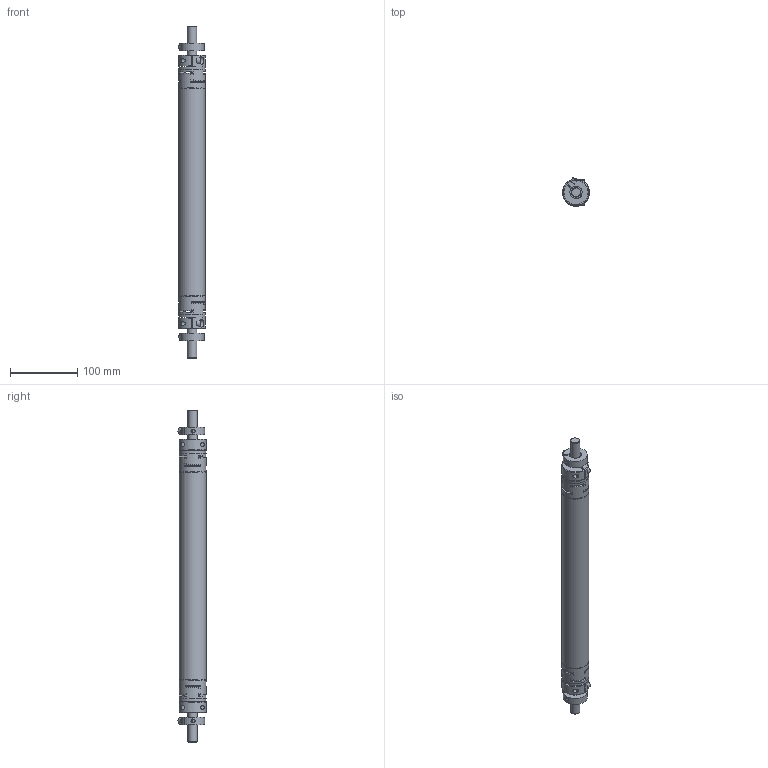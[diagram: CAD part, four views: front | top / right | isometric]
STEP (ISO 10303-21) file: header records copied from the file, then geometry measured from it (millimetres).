
FILE_DESCRIPTION(/* description */ ('Connecting shaft HLR080 - double axis distance = 500mm'),/* implementation_level */ '2;1');
FILE_NAME(/* name */ 'D:\InventorWorkspace2017\CAD\Projekte_EDEM\HLR\Zubehörteile\0242910-0500.stp',/* time_stamp */ '2019-02-13T11:21:44+01:00',/* author */ ('544672'),/* organization */ (''),/* preprocessor_version */ 'ST-DEVELOPER v16.5',/* originating_system */ 'Autodesk Inventor 2017',/* authorisation */ '');
FILE_SCHEMA (('AUTOMOTIVE_DESIGN { 1 0 10303 214 3 1 1 }'));
Length unit declared in the file: millimetre
Products named in the file (8): 0242.910-0500; 0241910-XXXX; ROTEX GS19 ZR3_Rohr_1; ROTEX GS19 ZR3_Klemmnabe D14; 0242007-02; 0241914; 0241012; 130-302345
Assembly tree (11 placements, depth 3):
  0242.910-0500
    0241910-XXXX
      ROTEX GS19 ZR3_Klemmnabe D14  x2
      ROTEX GS19 ZR3_Rohr_1
    0242007-02
      0241914  x2
      0241012  x2
      130-302345  x2
Bounding box: 40 x 41.78 x 495 mm (x, y, z)
Volume: 234383.2 mm3; surface area: 124084.9 mm2
Topology: 9 solids, 9 shells, 424 faces, 1188 edges, 790 vertices
Faces by surface type: cylinder 176, plane 154, cone 90, torus 4
Full cylindrical faces by diameter (mm): 3 x12, 4.917 x2, 6 x6, 6.4 x2, 6.6 x8, 10 x6, 14 x4, 18 x4, 22 x2, 34 x1, 39.4 x2, 40 x3
Entity records: 7305 total; most frequent: CARTESIAN_POINT 1526, DIRECTION 1269, ORIENTED_EDGE 1082, EDGE_CURVE 541, AXIS2_PLACEMENT_3D 540, VERTEX_POINT 383, EDGE_LOOP 294, CIRCLE 291
